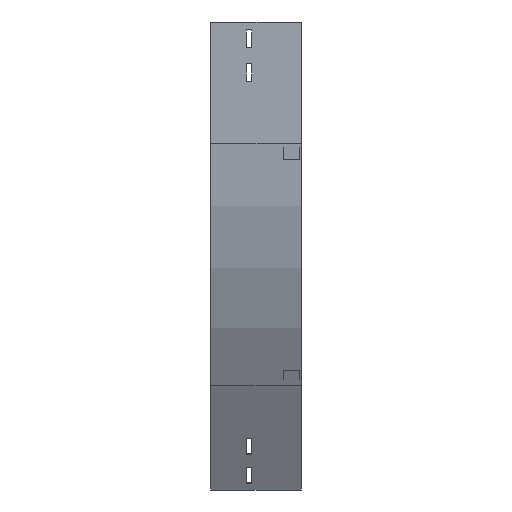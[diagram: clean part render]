
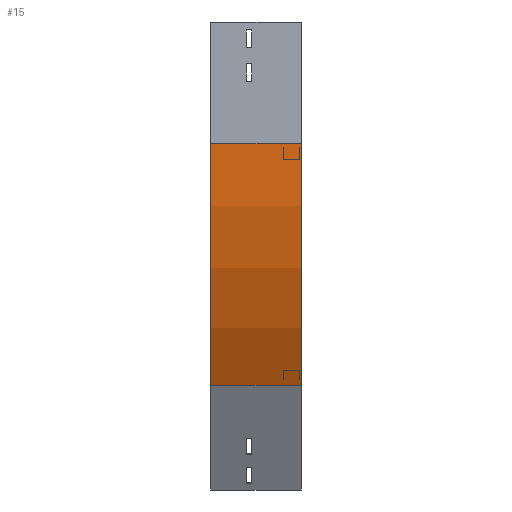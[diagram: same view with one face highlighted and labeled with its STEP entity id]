
A CAD part, left-side view. The second image highlights one B-rep face of the part: STEP entity #15.
In plain terms, the highlighted cylindrical face has radius 600 mm (diameter 1200 mm), a partial arc.
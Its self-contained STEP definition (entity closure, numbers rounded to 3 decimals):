
#15 = ADVANCED_FACE ( 'NONE', ( #1541 ), #2707, .T. ) ;
#23 = CARTESIAN_POINT ( 'NONE',  ( 0., 112.5, -150. ) ) ;
#52 = DIRECTION ( 'NONE',  ( 0., 0., -1. ) ) ;
#65 = EDGE_CURVE ( 'NONE', #966, #1672, #1972, .T. ) ;
#258 = ORIENTED_EDGE ( 'NONE', *, *, #3175, .T. ) ;
#414 = CARTESIAN_POINT ( 'NONE',  ( 0., 0., -150. ) ) ;
#447 = LINE ( 'NONE', #2206, #1496 ) ;
#575 = VERTEX_POINT ( 'NONE', #1911 ) ;
#664 = ORIENTED_EDGE ( 'NONE', *, *, #1076, .T. ) ;
#676 = ORIENTED_EDGE ( 'NONE', *, *, #65, .F. ) ;
#927 = DIRECTION ( 'NONE',  ( 0., -1., 0. ) ) ;
#966 = VERTEX_POINT ( 'NONE', #414 ) ;
#1009 = EDGE_CURVE ( 'NONE', #3724, #966, #447, .T. ) ;
#1076 = EDGE_CURVE ( 'NONE', #3724, #575, #2858, .T. ) ;
#1299 = AXIS2_PLACEMENT_3D ( 'NONE', #3837, #2688, #52 ) ;
#1496 = VECTOR ( 'NONE', #3187, 1000. ) ;
#1541 = FACE_OUTER_BOUND ( 'NONE', #3234, .T. ) ;
#1623 = DIRECTION ( 'NONE',  ( 0., -1., 0. ) ) ;
#1672 = VERTEX_POINT ( 'NONE', #3553 ) ;
#1904 = DIRECTION ( 'NONE',  ( 0., -1., 0. ) ) ;
#1911 = CARTESIAN_POINT ( 'NONE',  ( 80.385, 112.5, -450. ) ) ;
#1929 = CARTESIAN_POINT ( 'NONE',  ( 600., 112.5, -150. ) ) ;
#1972 = CIRCLE ( 'NONE', #3165, 600. ) ;
#2101 = DIRECTION ( 'NONE',  ( -1., 0., 0. ) ) ;
#2201 = CARTESIAN_POINT ( 'NONE',  ( 80.385, 0., -450. ) ) ;
#2206 = CARTESIAN_POINT ( 'NONE',  ( 0., 0., -150. ) ) ;
#2258 = LINE ( 'NONE', #2201, #3172 ) ;
#2281 = DIRECTION ( 'NONE',  ( -1., 0., 0. ) ) ;
#2285 = ORIENTED_EDGE ( 'NONE', *, *, #1009, .F. ) ;
#2688 = DIRECTION ( 'NONE',  ( 0., -1., 0. ) ) ;
#2707 = CYLINDRICAL_SURFACE ( 'NONE', #1299, 600. ) ;
#2858 = CIRCLE ( 'NONE', #3057, 600. ) ;
#3057 = AXIS2_PLACEMENT_3D ( 'NONE', #1929, #1623, #2281 ) ;
#3165 = AXIS2_PLACEMENT_3D ( 'NONE', #3583, #927, #2101 ) ;
#3172 = VECTOR ( 'NONE', #1904, 1000. ) ;
#3175 = EDGE_CURVE ( 'NONE', #575, #1672, #2258, .T. ) ;
#3187 = DIRECTION ( 'NONE',  ( 0., -1., 0. ) ) ;
#3234 = EDGE_LOOP ( 'NONE', ( #676, #2285, #664, #258 ) ) ;
#3553 = CARTESIAN_POINT ( 'NONE',  ( 80.385, 0., -450. ) ) ;
#3583 = CARTESIAN_POINT ( 'NONE',  ( 600., 0., -150. ) ) ;
#3724 = VERTEX_POINT ( 'NONE', #23 ) ;
#3837 = CARTESIAN_POINT ( 'NONE',  ( 600., 0., -150. ) ) ;
